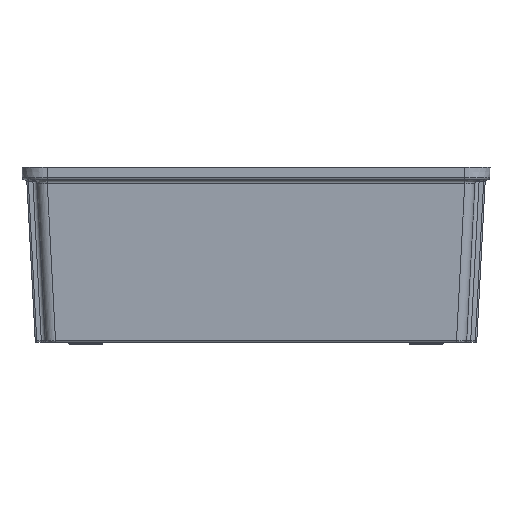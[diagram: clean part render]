
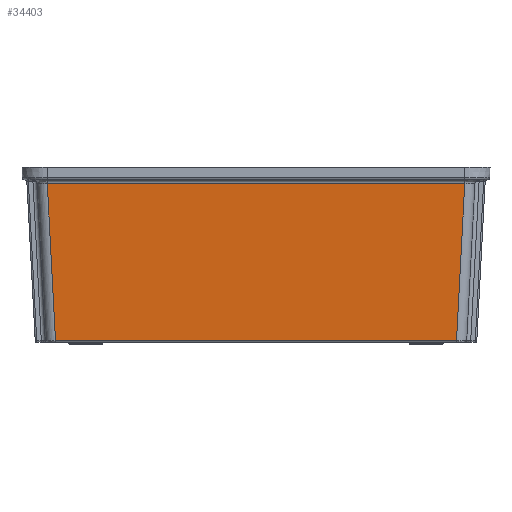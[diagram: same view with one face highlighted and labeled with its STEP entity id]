
A CAD part, left-side view. The second image highlights one B-rep face of the part: STEP entity #34403.
In plain terms, the highlighted planar face has unit normal (-0.999, 0, -0.052).
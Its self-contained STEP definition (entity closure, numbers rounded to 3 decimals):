
#10353=CARTESIAN_POINT('',(-62.329,41.032,
28.142));
#10358=DIRECTION('',(0.052,0.052,-0.997));
#10359=VECTOR('',#10358,30.942);
#10360=CARTESIAN_POINT('',(-62.329,-41.032,
28.142));
#10361=LINE('',#10360,#10359);
#10365=DIRECTION('',(0.,1.,0.));
#10366=VECTOR('',#10365,78.83);
#10367=CARTESIAN_POINT('',(-60.712,-39.415,
-2.716));
#10368=LINE('',#10367,#10366);
#10372=DIRECTION('',(-0.052,0.052,0.997));
#10373=VECTOR('',#10372,30.942);
#10374=CARTESIAN_POINT('',(-60.712,39.415,
-2.716));
#10375=LINE('',#10374,#10373);
#10379=DIRECTION('',(0.,-1.,0.));
#10380=VECTOR('',#10379,82.064);
#10381=CARTESIAN_POINT('',(-62.329,41.032,
28.142));
#10382=LINE('',#10381,#10380);
#21460=VERTEX_POINT('',#10353);
#21463=CARTESIAN_POINT('',(-62.329,-41.032,
28.142));
#21464=VERTEX_POINT('',#21463);
#21511=CARTESIAN_POINT('',(-60.712,-39.415,
-2.716));
#21512=VERTEX_POINT('',#21511);
#21513=CARTESIAN_POINT('',(-60.712,39.415,
-2.716));
#21514=VERTEX_POINT('',#21513);
#34390=CARTESIAN_POINT('',(-62.5,45.4,31.4));
#34391=DIRECTION('',(-0.999,0.,-0.052));
#34392=DIRECTION('',(0.,-1.,0.));
#34393=AXIS2_PLACEMENT_3D('',#34390,#34391,#34392);
#34394=PLANE('',#34393);
#34396=ORIENTED_EDGE('',*,*,#34395,.T.);
#34397=ORIENTED_EDGE('',*,*,#34280,.T.);
#34398=ORIENTED_EDGE('',*,*,#34374,.T.);
#34400=ORIENTED_EDGE('',*,*,#34399,.T.);
#34401=EDGE_LOOP('',(#34396,#34397,#34398,#34400));
#34402=FACE_OUTER_BOUND('',#34401,.F.);
#34280=EDGE_CURVE('',#21512,#21514,#10368,.T.);
#34374=EDGE_CURVE('',#21514,#21460,#10375,.T.);
#34395=EDGE_CURVE('',#21464,#21512,#10361,.T.);
#34399=EDGE_CURVE('',#21460,#21464,#10382,.T.);
#34403=ADVANCED_FACE('',(#34402),#34394,.T.);
